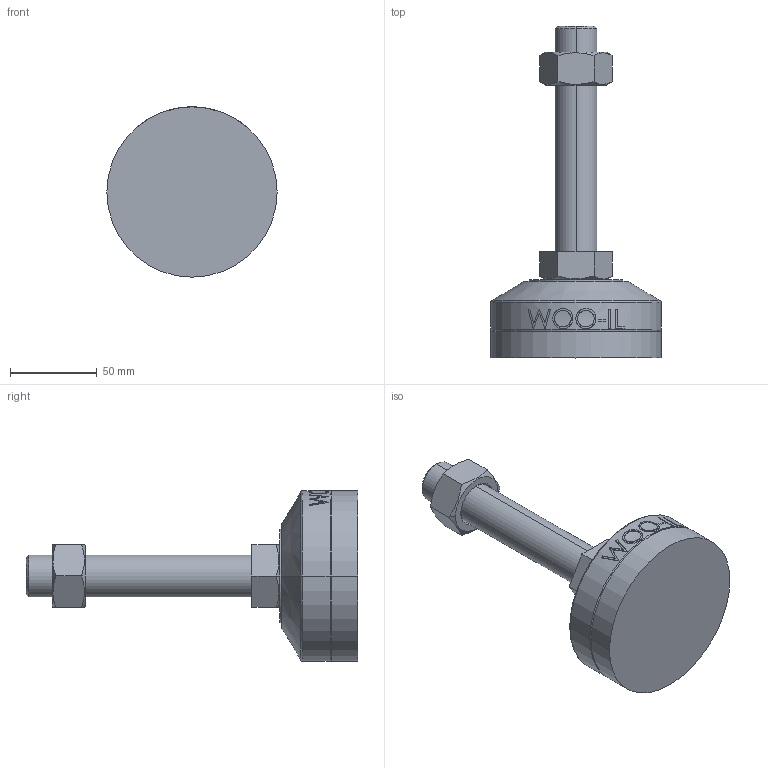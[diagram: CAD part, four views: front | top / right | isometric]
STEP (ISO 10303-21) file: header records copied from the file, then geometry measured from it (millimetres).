
FILE_DESCRIPTION (( 'STEP AP214' ), '1' );
FILE_NAME ('MFR98-M24-130.step', '2021-01-13T05:40:47', ( '' ), ( '' ), 'SwSTEP 2.0', 'SolidWorks 2019', '' );
FILE_SCHEMA (( 'AUTOMOTIVE_DESIGN' ));
Length unit declared in the file: millimetre
Products named in the file (2): MFR98-M24-130
Bounding box: 98 x 191 x 98 mm (x, y, z)
Volume: 393790.5 mm3; surface area: 59786.2 mm2
Topology: 4 solids, 4 shells, 103 faces, 235 edges, 150 vertices
Faces by surface type: plane 49, cylinder 18, bspline 16, cone 14, torus 6
Entity records: 4617 total; most frequent: CARTESIAN_POINT 2344, ORIENTED_EDGE 470, DIRECTION 417, EDGE_CURVE 235, AXIS2_PLACEMENT_3D 159, VERTEX_POINT 150, EDGE_LOOP 115, FACE_OUTER_BOUND 103
